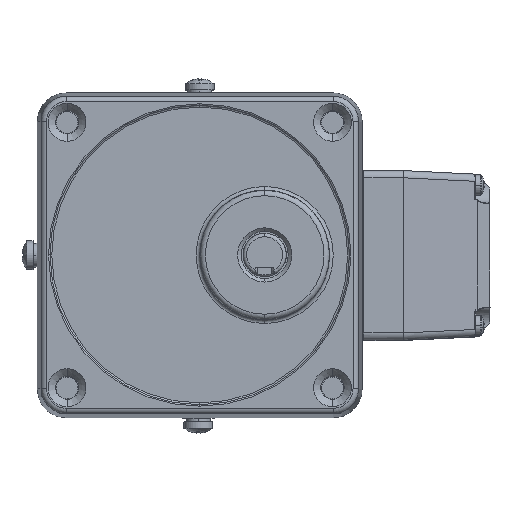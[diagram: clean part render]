
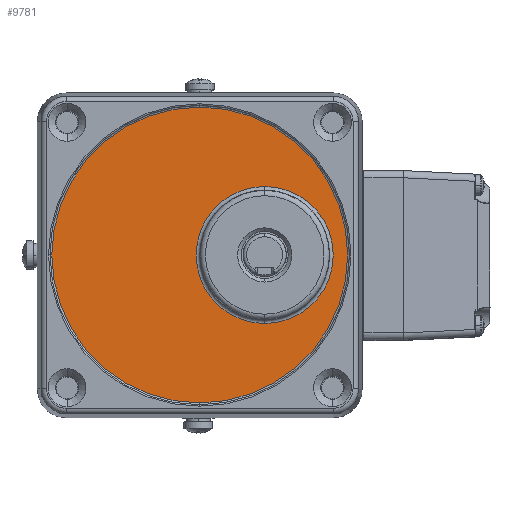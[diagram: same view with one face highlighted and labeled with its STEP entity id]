
A CAD part, top view. The second image highlights one B-rep face of the part: STEP entity #9781.
In plain terms, the highlighted planar face has unit normal (0, 0, 1) as drawn and (1, 0, 0) by its records, which use the part's own axes.
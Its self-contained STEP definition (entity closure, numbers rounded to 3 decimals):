
#2759 = AXIS2_PLACEMENT_3D ( 'NONE', #39006, #60320, #12411 ) ;
#5592 = DIRECTION ( 'NONE',  ( -1., 0., 0. ) ) ;
#9781 = ADVANCED_FACE ( 'NONE', ( #22281, #43592 ), #64908, .T. ) ;
#12411 = DIRECTION ( 'NONE',  ( 0., 1., 0. ) ) ;
#14051 = VERTEX_POINT ( 'NONE', #34789 ) ;
#16975 = CARTESIAN_POINT ( 'NONE',  ( 2697.792, -775.157, 0. ) ) ;
#18686 = ORIENTED_EDGE ( 'NONE', *, *, #19886, .F. ) ;
#19664 = CIRCLE ( 'NONE', #28614, 40.991 ) ;
#19886 = EDGE_CURVE ( 'NONE', #68399, #63565, #62118, .T. ) ;
#20655 = DIRECTION ( 'NONE',  ( 1., 0., 0. ) ) ;
#22281 = FACE_OUTER_BOUND ( 'NONE', #38112, .T. ) ;
#22613 = CARTESIAN_POINT ( 'NONE',  ( 2697.792, -775.157, 18. ) ) ;
#22993 = CARTESIAN_POINT ( 'NONE',  ( 2697.792, -756.175, 18. ) ) ;
#25086 = VERTEX_POINT ( 'NONE', #59284 ) ;
#26754 = AXIS2_PLACEMENT_3D ( 'NONE', #68536, #20655, #41966 ) ;
#26946 = DIRECTION ( 'NONE',  ( 0., -1., 0. ) ) ;
#28614 = AXIS2_PLACEMENT_3D ( 'NONE', #53514, #5592, #26946 ) ;
#32002 = AXIS2_PLACEMENT_3D ( 'NONE', #22613, #43947, #65279 ) ;
#32930 = CIRCLE ( 'NONE', #2759, 40.991 ) ;
#34789 = CARTESIAN_POINT ( 'NONE',  ( 2697.792, -734.166, 0. ) ) ;
#35338 = ORIENTED_EDGE ( 'NONE', *, *, #58151, .F. ) ;
#36684 = EDGE_LOOP ( 'NONE', ( #18686, #35338 ) ) ;
#38112 = EDGE_LOOP ( 'NONE', ( #46462, #51209 ) ) ;
#38319 = DIRECTION ( 'NONE',  ( 1., 0., 0. ) ) ;
#39006 = CARTESIAN_POINT ( 'NONE',  ( 2697.792, -775.157, 0. ) ) ;
#41966 = DIRECTION ( 'NONE',  ( 0., 1., 0. ) ) ;
#43592 = FACE_BOUND ( 'NONE', #36684, .T. ) ;
#43947 = DIRECTION ( 'NONE',  ( 1., 0., 0. ) ) ;
#44287 = EDGE_CURVE ( 'NONE', #14051, #25086, #32930, .T. ) ;
#46462 = ORIENTED_EDGE ( 'NONE', *, *, #64228, .F. ) ;
#49020 = CARTESIAN_POINT ( 'NONE',  ( 2697.792, -794.14, 18. ) ) ;
#51209 = ORIENTED_EDGE ( 'NONE', *, *, #44287, .F. ) ;
#53514 = CARTESIAN_POINT ( 'NONE',  ( 2697.792, -775.157, 0. ) ) ;
#56877 = CIRCLE ( 'NONE', #26754, 18.983 ) ;
#58151 = EDGE_CURVE ( 'NONE', #63565, #68399, #56877, .T. ) ;
#59284 = CARTESIAN_POINT ( 'NONE',  ( 2697.792, -816.149, 0. ) ) ;
#59671 = DIRECTION ( 'NONE',  ( 0., 1., 0. ) ) ;
#60320 = DIRECTION ( 'NONE',  ( -1., 0., 0. ) ) ;
#61682 = AXIS2_PLACEMENT_3D ( 'NONE', #16975, #38319, #59671 ) ;
#62118 = CIRCLE ( 'NONE', #32002, 18.983 ) ;
#63565 = VERTEX_POINT ( 'NONE', #22993 ) ;
#64228 = EDGE_CURVE ( 'NONE', #25086, #14051, #19664, .T. ) ;
#64908 = PLANE ( 'NONE',  #61682 ) ;
#65279 = DIRECTION ( 'NONE',  ( 0., -1., 0. ) ) ;
#68399 = VERTEX_POINT ( 'NONE', #49020 ) ;
#68536 = CARTESIAN_POINT ( 'NONE',  ( 2697.792, -775.157, 18. ) ) ;
